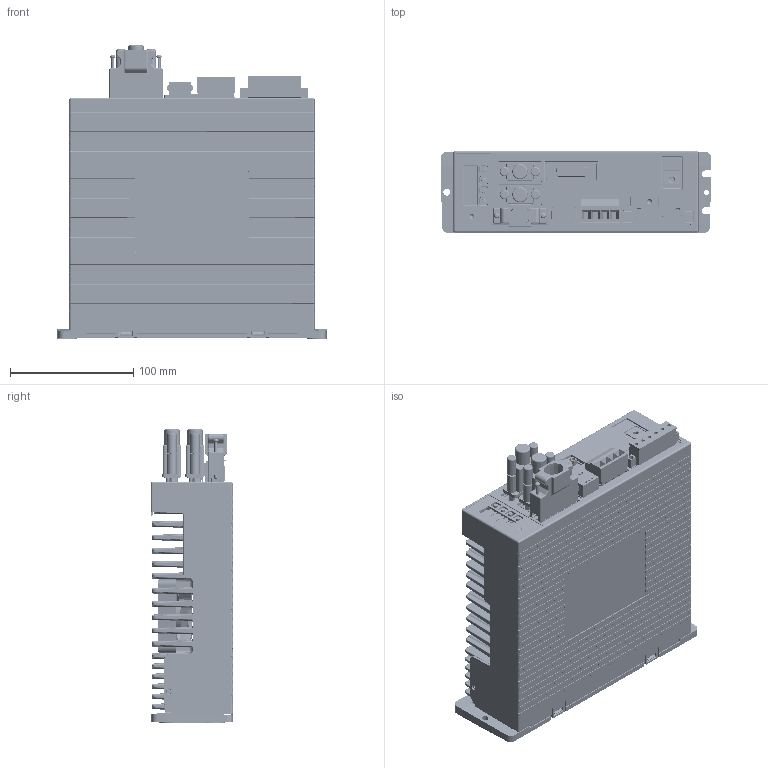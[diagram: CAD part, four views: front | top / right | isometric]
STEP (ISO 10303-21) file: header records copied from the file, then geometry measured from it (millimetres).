
FILE_DESCRIPTION((''),'2;1');
FILE_NAME('PR01','2014-07-24T',('kinco218'),(''),'PRO/ENGINEER BY PARAMETRIC TECHNOLOGY CORPORATION, 2010100','PRO/ENGINEER BY PARAMETRIC TECHNOLOGY CORPORATION, 2010100','');
FILE_SCHEMA(('CONFIG_CONTROL_DESIGN'));
Products named in the file (1): PR01
Bounding box: 220 x 66.7 x 238.19 mm (x, y, z)
Volume: 41470 mm3; surface area: 532203.9 mm2
Topology: 32 solids, 35 shells, 6060 faces, 15413 edges, 9328 vertices
Faces by surface type: cylinder 2246, plane 2047, bspline 722, torus 465, sphere 343, cone 223, extrusion 14
Entity records: 206045 total; most frequent: CARTESIAN_POINT 67822, ORIENTED_EDGE 30204, DIRECTION 26962, EDGE_CURVE 15108, AXIS2_PLACEMENT_3D 9950, VERTEX_POINT 9332, VECTOR 7062, LINE 7048
